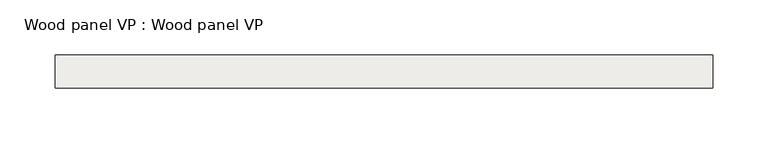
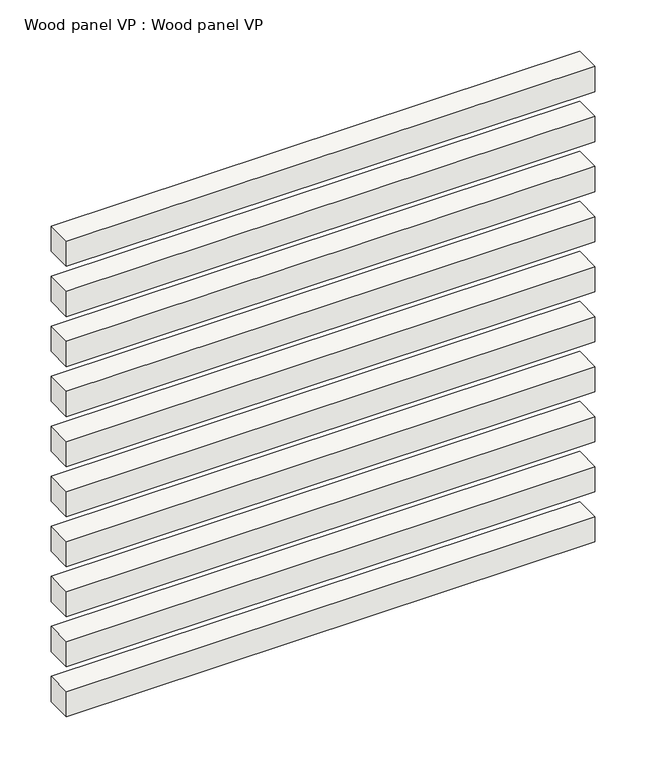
"""IFC4 building model written with IfcOpenShell, lengths in millimetres: covering geometry, Wood panel VP : Wood panel VP."""

from ifc_helpers import new_model, si_unit, frame, origin, origin_with_axes, place, context, project, spatial, polyline, outline, extrude, source, transform, mapped, element, save


def wood_panel_vp_wood_panel_vp_37c0b4ee(model_context):
    return source(origin(), model_context, "Body", "SweptSolid", [
        extrude(outline(polyline([(298.2404059, 89.5), (298.2404059, 59.5), (-298.2404059, 59.5), (-298.2404059, 89.5), (298.2404059, 89.5)])), origin_with_axes(), (0.0, 0.0, 1.0), 30.0),
        extrude(outline(polyline([(298.2404059, 89.5), (298.2404059, 59.5), (-298.2404059, 59.5), (-298.2404059, 89.5), (298.2404059, 89.5)])), frame((0.0, 0.0, 59.7244306), z_axis=(0.0, 0.0, 1.0), x_axis=(1.0, 0.0, 0.0)), (0.0, 0.0, 1.0), 30.0),
        extrude(outline(polyline([(298.2404059, 89.5), (298.2404059, 59.5), (-298.2404059, 59.5), (-298.2404059, 89.5), (298.2404059, 89.5)])), frame((0.0, 0.0, 119.4488612), z_axis=(0.0, 0.0, 1.0), x_axis=(1.0, 0.0, 0.0)), (0.0, 0.0, 1.0), 30.0),
        extrude(outline(polyline([(298.2404059, 89.5), (298.2404059, 59.5), (-298.2404059, 59.5), (-298.2404059, 89.5), (298.2404059, 89.5)])), frame((0.0, 0.0, 179.1732918), z_axis=(0.0, 0.0, 1.0), x_axis=(1.0, 0.0, 0.0)), (0.0, 0.0, 1.0), 30.0),
        extrude(outline(polyline([(298.2404059, 89.5), (298.2404059, 59.5), (-298.2404059, 59.5), (-298.2404059, 89.5), (298.2404059, 89.5)])), frame((0.0, 0.0, 238.8977224), z_axis=(0.0, 0.0, 1.0), x_axis=(1.0, 0.0, 0.0)), (0.0, 0.0, 1.0), 30.0),
        extrude(outline(polyline([(298.2404059, 89.5), (298.2404059, 59.5), (-298.2404059, 59.5), (-298.2404059, 89.5), (298.2404059, 89.5)])), frame((0.0, 0.0, 298.622153), z_axis=(0.0, 0.0, 1.0), x_axis=(1.0, 0.0, 0.0)), (0.0, 0.0, 1.0), 30.0),
        extrude(outline(polyline([(298.2404059, 89.5), (298.2404059, 59.5), (-298.2404059, 59.5), (-298.2404059, 89.5), (298.2404059, 89.5)])), frame((0.0, 0.0, 358.3465836), z_axis=(0.0, 0.0, 1.0), x_axis=(1.0, 0.0, 0.0)), (0.0, 0.0, 1.0), 30.0),
        extrude(outline(polyline([(298.2404059, 89.5), (298.2404059, 59.5), (-298.2404059, 59.5), (-298.2404059, 89.5), (298.2404059, 89.5)])), frame((0.0, 0.0, 418.0710142), z_axis=(0.0, 0.0, 1.0), x_axis=(1.0, 0.0, 0.0)), (0.0, 0.0, 1.0), 30.0),
        extrude(outline(polyline([(298.2404059, 89.5), (298.2404059, 59.5), (-298.2404059, 59.5), (-298.2404059, 89.5), (298.2404059, 89.5)])), frame((0.0, 0.0, 477.7954448), z_axis=(0.0, 0.0, 1.0), x_axis=(1.0, 0.0, 0.0)), (0.0, 0.0, 1.0), 30.0),
        extrude(outline(polyline([(298.2404059, 89.5), (298.2404059, 59.5), (-298.2404059, 59.5), (-298.2404059, 89.5), (298.2404059, 89.5)])), frame((0.0, 0.0, 537.5198754), z_axis=(0.0, 0.0, 1.0), x_axis=(1.0, 0.0, 0.0)), (0.0, 0.0, 1.0), 30.0),
    ])


if __name__ == "__main__":
    model = new_model("IFC4")
    model_context = context("Model", 3, world=origin())
    ifc_project = project(units=[si_unit("LENGTHUNIT", "METRE", prefix="MILLI")], contexts=[model_context])
    site = spatial("IfcSite", under=ifc_project)
    building = spatial("IfcBuilding", under=site)
    placement = place(None, origin())
    wood_panel_vp_wood_panel_vp_shape = wood_panel_vp_wood_panel_vp_37c0b4ee(model_context)
    element("IfcCovering", 1, ObjectType="Wood panel VP : Wood panel VP", at=placement, inside=building, context=model_context, shape_type="MappedRepresentation", body=[
        mapped(wood_panel_vp_wood_panel_vp_shape, transform((0.0, 0.0, 0.0), x_axis=(1.0, 0.0, 0.0), y_axis=(0.0, 1.0, 0.0), z_axis=(0.0, 0.0, 1.0))),
    ])
    save(model, "model.ifc")
